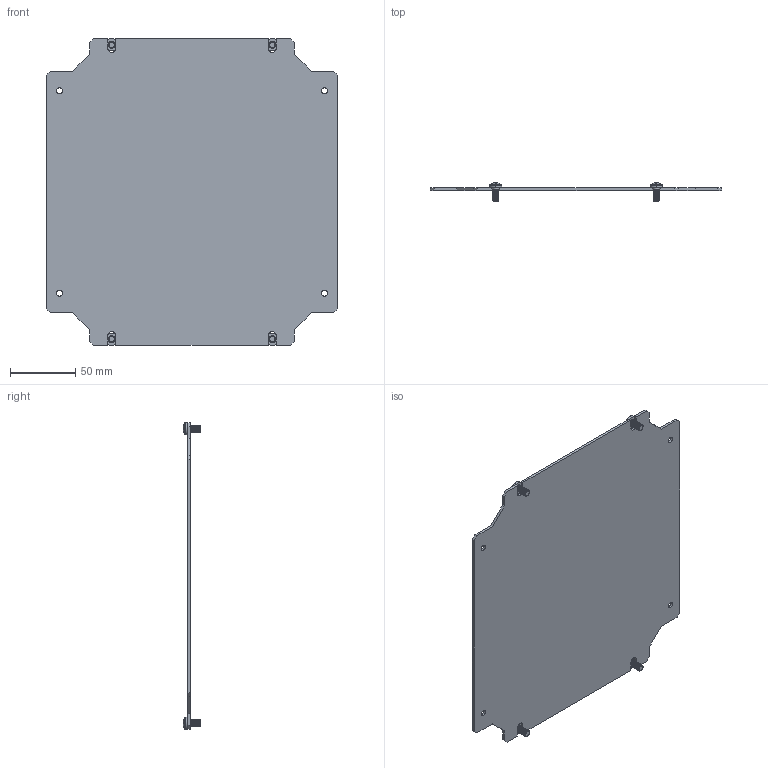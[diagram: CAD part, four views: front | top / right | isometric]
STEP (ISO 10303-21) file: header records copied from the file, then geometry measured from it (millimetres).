
FILE_DESCRIPTION (( 'STEP AP214' ), '1' );
FILE_NAME ('943.220--DM Small 250 W x 250 H Mounting Plate.STEP', '2020-12-03T10:19:15', ( '' ), ( '' ), 'SwSTEP 2.0', 'SolidWorks 2019', '' );
FILE_SCHEMA (( 'AUTOMOTIVE_DESIGN' ));
Length unit declared in the file: millimetre
Products named in the file (8): DM Small Montaj Plakasi 2mm; M5x10; DM Small Montaj Plakasi 2mm_PP 20.0104 - 250x250; 943.220--DM Small 250 W x 250 H Mounting Plate; M5x10_ISO 7045 - M5 x 10 - Z --- 10C
Assembly tree (5 placements, depth 2):
  DM Small Montaj Plakasi 2mm
  M5x10
  M5x10
  943.220--DM Small 250 W x 250 H Mounting Plate
    DM Small Montaj Plakasi 2mm_PP 20.0104 - 250x250
    M5x10_ISO 7045 - M5 x 10 - Z --- 10C  x4
  M5x10
Bounding box: 223 x 13.63 x 235.12 mm (x, y, z)
Volume: 99671.9 mm3; surface area: 102033.7 mm2
Topology: 5 solids, 5 shells, 460 faces, 1214 edges, 760 vertices
Faces by surface type: cone 208, cylinder 118, plane 110, torus 16, sphere 8
Entity records: 5136 total; most frequent: DIRECTION 922, CARTESIAN_POINT 866, ORIENTED_EDGE 828, EDGE_CURVE 414, AXIS2_PLACEMENT_3D 353, VERTEX_POINT 265, LINE 216, VECTOR 216
